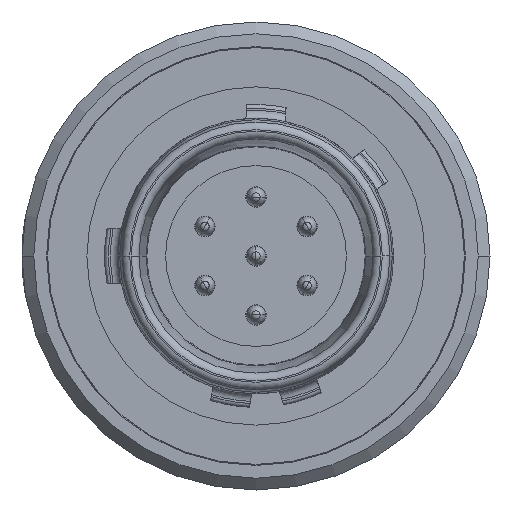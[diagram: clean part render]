
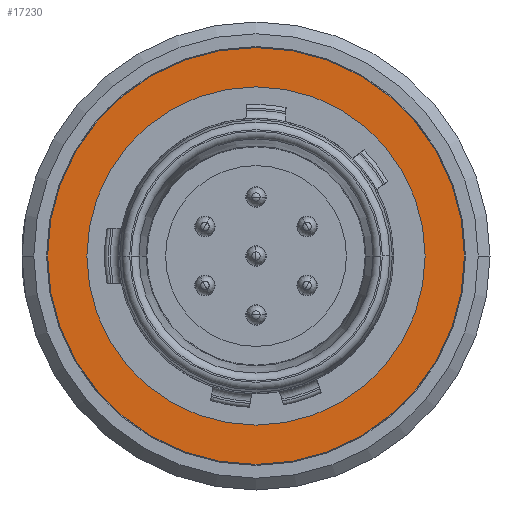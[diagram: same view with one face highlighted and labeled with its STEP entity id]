
A CAD part, left-side view. The second image highlights one B-rep face of the part: STEP entity #17230.
In plain terms, the highlighted planar face has unit normal (-1, 0, 0).
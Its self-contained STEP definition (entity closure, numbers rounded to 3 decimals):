
#2048=CARTESIAN_POINT('',(-7.501,0.,0.));
#2049=DIRECTION('',(-1.,0.,0.));
#2050=DIRECTION('',(0.,-1.,0.));
#2051=AXIS2_PLACEMENT_3D('',#2048,#2049,#2050);
#2167=CARTESIAN_POINT('',(-7.501,0.,0.));
#2168=DIRECTION('',(1.,0.,0.));
#2169=DIRECTION('',(0.,-1.,0.));
#2170=AXIS2_PLACEMENT_3D('',#2167,#2168,#2169);
#2172=CARTESIAN_POINT('',(-7.501,0.,0.));
#2173=DIRECTION('',(1.,0.,0.));
#2174=DIRECTION('',(0.,-1.,0.));
#2175=AXIS2_PLACEMENT_3D('',#2172,#2173,#2174);
#2177=CARTESIAN_POINT('',(-7.501,0.,0.));
#2178=DIRECTION('',(-1.,0.,0.));
#2179=DIRECTION('',(0.,-1.,0.));
#2180=AXIS2_PLACEMENT_3D('',#2177,#2178,#2179);
#15293=CARTESIAN_POINT('',(-7.501,-4.3,0.));
#15294=CARTESIAN_POINT('',(-7.501,4.3,0.));
#15295=VERTEX_POINT('',#15293);
#15296=VERTEX_POINT('',#15294);
#15297=CARTESIAN_POINT('',(-7.501,-5.3,0.));
#15298=CARTESIAN_POINT('',(-7.501,5.3,0.));
#15299=VERTEX_POINT('',#15297);
#15300=VERTEX_POINT('',#15298);
#17215=CARTESIAN_POINT('',(-7.501,0.,0.));
#17216=DIRECTION('',(1.,0.,0.));
#17217=DIRECTION('',(0.,-1.,0.));
#17218=AXIS2_PLACEMENT_3D('',#17215,#17216,#17217);
#17219=PLANE('',#17218);
#17220=ORIENTED_EDGE('',*,*,#17181,.F.);
#17221=ORIENTED_EDGE('',*,*,#17202,.T.);
#17222=EDGE_LOOP('',(#17220,#17221));
#17223=FACE_OUTER_BOUND('',#17222,.F.);
#17225=ORIENTED_EDGE('',*,*,#17224,.F.);
#17227=ORIENTED_EDGE('',*,*,#17226,.T.);
#17228=EDGE_LOOP('',(#17225,#17227));
#17229=FACE_BOUND('',#17228,.F.);
#2052=CIRCLE('',#2051,5.3);
#2171=CIRCLE('',#2170,5.3);
#2176=CIRCLE('',#2175,4.3);
#2181=CIRCLE('',#2180,4.3);
#17181=EDGE_CURVE('',#15299,#15300,#2052,.T.);
#17202=EDGE_CURVE('',#15299,#15300,#2171,.T.);
#17224=EDGE_CURVE('',#15295,#15296,#2176,.T.);
#17226=EDGE_CURVE('',#15295,#15296,#2181,.T.);
#17230=ADVANCED_FACE('',(#17223,#17229),#17219,.F.);
